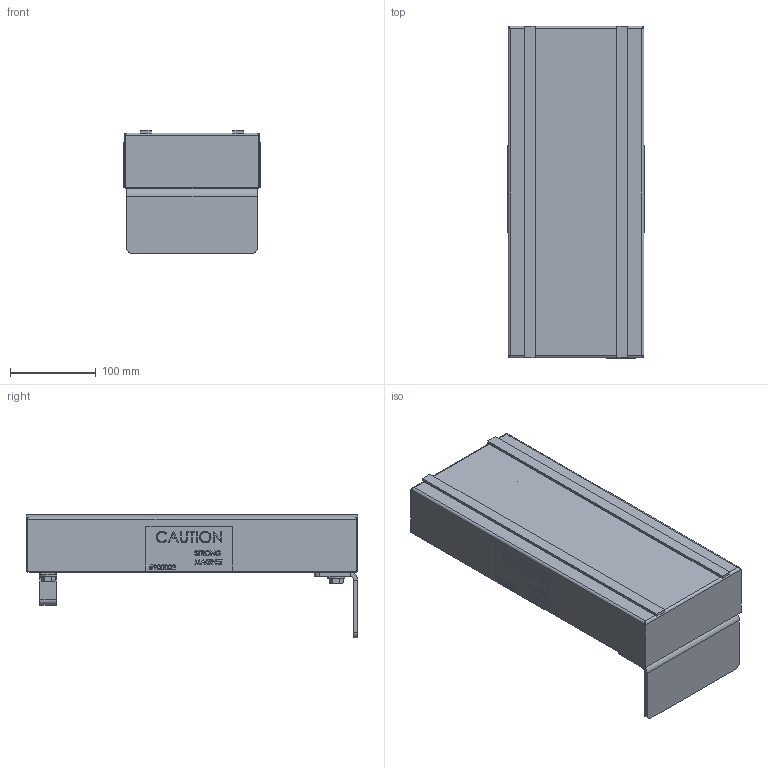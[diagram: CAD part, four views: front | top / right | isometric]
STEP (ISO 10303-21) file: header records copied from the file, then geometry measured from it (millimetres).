
FILE_DESCRIPTION (( 'STEP AP203' ), '1' );
FILE_NAME ('MGF15.STEP', '2017-12-20T15:35:40', ( 'admin' ), ( '' ), 'SwSTEP 2.0', 'SolidWorks 2015', '' );
FILE_SCHEMA (( 'CONFIG_CONTROL_DESIGN' ));
Products named in the file (1): MGF15
Bounding box: 159.26 x 387.6 x 144.15 mm (x, y, z)
Volume: 2135300.3 mm3; surface area: 628644.4 mm2
Topology: 20 solids, 20 shells, 2352 faces, 5954 edges, 3860 vertices
Faces by surface type: plane 1313, bspline 675, cylinder 180, cone 176, torus 8
Entity records: 111259 total; most frequent: CARTESIAN_POINT 59064, ORIENTED_EDGE 11908, DIRECTION 8316, EDGE_CURVE 5954, LINE 4032, VECTOR 4032, VERTEX_POINT 3860, EDGE_LOOP 2602
